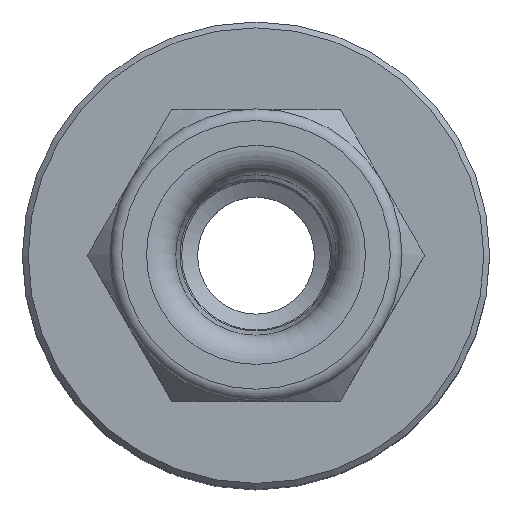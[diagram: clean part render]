
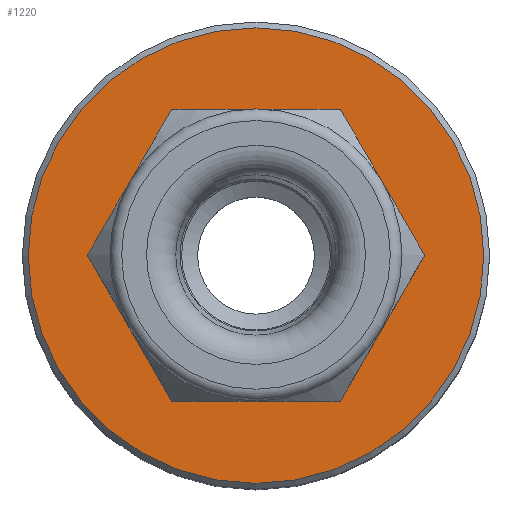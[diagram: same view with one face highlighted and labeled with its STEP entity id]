
A CAD part, top view. The second image highlights one B-rep face of the part: STEP entity #1220.
In plain terms, the highlighted planar face has unit normal (0, 0, 1).
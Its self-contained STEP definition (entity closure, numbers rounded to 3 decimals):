
#1220=ADVANCED_FACE('', (#1230,#1240), #1250, .T.);
#4450=AXIS2_PLACEMENT_3D('Ax2Pl3d', #4460, #4470, #4480);
#4490=AXIS2_PLACEMENT_3D('Ax2Pl3d', #4500, #4510, #4520);
#4460=CARTESIAN_POINT('HicPkt', (13.623,19.748,
19.696));
#4500=CARTESIAN_POINT('HicPkt', (13.623,11.948,
19.696));
#6510=CARTESIAN_POINT('', (13.623,19.748,19.696));
#6520=CARTESIAN_POINT('', (19.396,11.948,19.696));
#6530=CARTESIAN_POINT('', (16.509,6.948,19.696));
#6540=CARTESIAN_POINT('', (19.396,11.948,19.696));
#6550=CARTESIAN_POINT('', (16.509,6.948,19.696));
#6560=CARTESIAN_POINT('', (10.736,6.948,19.696));
#6570=CARTESIAN_POINT('', (10.736,6.948,19.696));
#6580=CARTESIAN_POINT('', (7.849,11.948,19.696));
#6590=CARTESIAN_POINT('', (7.849,11.948,19.696));
#6600=CARTESIAN_POINT('', (10.736,16.948,19.696));
#6610=CARTESIAN_POINT('', (10.736,16.948,19.696));
#6620=CARTESIAN_POINT('', (16.509,16.948,19.696));
#6630=CARTESIAN_POINT('', (16.509,16.948,19.696));
#7210=CIRCLE('Circle', #4490, 7.8);
#4470=DIRECTION('Axis', (0.,0.,1.));
#4480=DIRECTION('RefDirection', (1.,0.,-0.));
#4510=DIRECTION('Axis', (0.,0.,1.));
#4520=DIRECTION('RefDirection', (1.,0.,-0.));
#9690=DIRECTION('', (0.5,0.866,0.));
#9700=DIRECTION('', (1.,0.,0.));
#9710=DIRECTION('', (0.5,-0.866,0.));
#9720=DIRECTION('', (-0.5,-0.866,0.));
#9730=DIRECTION('', (-1.,0.,0.));
#9740=DIRECTION('', (-0.5,0.866,0.));
#10410=EDGE_CURVE('', #10420, #10420, #7210, .T.);
#10430=EDGE_CURVE('', #10440, #10450, #10460, .T.);
#10470=EDGE_CURVE('', #10480, #10440, #10490, .T.);
#10500=EDGE_CURVE('', #10510, #10480, #10520, .T.);
#10530=EDGE_CURVE('', #10540, #10510, #10550, .T.);
#10560=EDGE_CURVE('', #10570, #10540, #10580, .T.);
#10590=EDGE_CURVE('', #10450, #10570, #10600, .T.);
#12130=EDGE_LOOP('Edge_loop', (#12140));
#12150=EDGE_LOOP('Edge_loop', (#12160,#12170,#12180,#12190,#12200,
#12210));
#1240=FACE_BOUND('', #12150, .T.);
#1230=FACE_OUTER_BOUND('Face_outer_bound', #12130, .T.);
#10460=LINE('Line', #6520, #13550);
#10490=LINE('Line', #6550, #13560);
#10520=LINE('Line', #6570, #13570);
#10550=LINE('Line', #6590, #13580);
#10580=LINE('Line', #6610, #13590);
#10600=LINE('Line', #6630, #13600);
#12140=ORIENTED_EDGE('', *, *, #10410, .T.);
#12160=ORIENTED_EDGE('', *, *, #10430, .F.);
#12170=ORIENTED_EDGE('', *, *, #10470, .F.);
#12180=ORIENTED_EDGE('', *, *, #10500, .F.);
#12190=ORIENTED_EDGE('', *, *, #10530, .F.);
#12200=ORIENTED_EDGE('', *, *, #10560, .F.);
#12210=ORIENTED_EDGE('', *, *, #10590, .F.);
#1250=PLANE('Plane', #4450);
#13550=VECTOR('', #9690, 5.774);
#13560=VECTOR('', #9700, 5.774);
#13570=VECTOR('', #9710, 5.774);
#13580=VECTOR('', #9720, 5.774);
#13590=VECTOR('', #9730, 5.774);
#13600=VECTOR('', #9740, 5.774);
#10420=VERTEX_POINT('', #6510);
#10440=VERTEX_POINT('', #6530);
#10450=VERTEX_POINT('', #6540);
#10480=VERTEX_POINT('', #6560);
#10510=VERTEX_POINT('', #6580);
#10540=VERTEX_POINT('', #6600);
#10570=VERTEX_POINT('', #6620);
